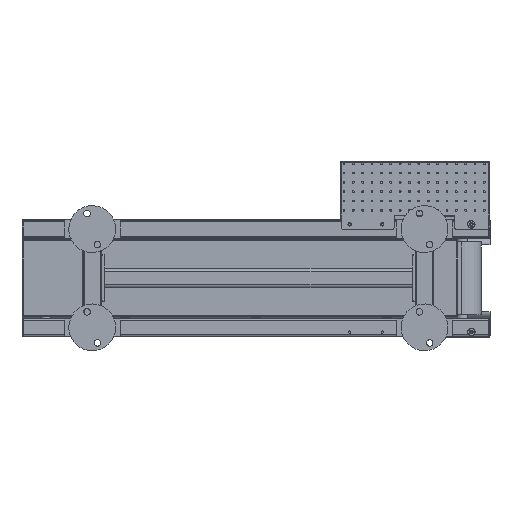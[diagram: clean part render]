
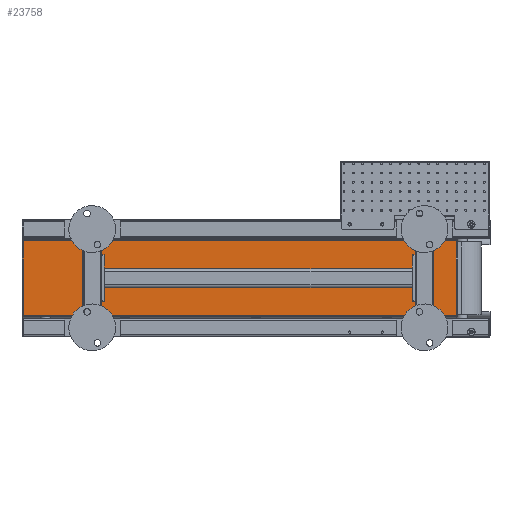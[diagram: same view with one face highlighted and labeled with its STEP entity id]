
A CAD part, front view. The second image highlights one B-rep face of the part: STEP entity #23758.
In plain terms, the highlighted planar face has unit normal (0, -1, 0).
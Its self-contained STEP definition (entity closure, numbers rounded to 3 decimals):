
#19118=PLANE('',#113540);
#23758=ADVANCED_FACE('',(#30215),#19118,.F.);
#30215=FACE_OUTER_BOUND('',#35232,.T.);
#35232=EDGE_LOOP('',(#59792,#59793,#59794,#59795));
#41937=LINE('',#145278,#50589);
#41938=LINE('',#145279,#50590);
#41939=LINE('',#145280,#50591);
#41940=LINE('',#145281,#50592);
#50589=VECTOR('',#121256,1.);
#50590=VECTOR('',#121257,1.);
#50591=VECTOR('',#121258,1.);
#50592=VECTOR('',#121259,1.);
#59792=ORIENTED_EDGE('',*,*,#96647,.T.);
#59793=ORIENTED_EDGE('',*,*,#96648,.F.);
#59794=ORIENTED_EDGE('',*,*,#96649,.T.);
#59795=ORIENTED_EDGE('',*,*,#96650,.T.);
#87556=VERTEX_POINT('',#145237);
#87558=VERTEX_POINT('',#145243);
#87564=VERTEX_POINT('',#145255);
#87567=VERTEX_POINT('',#145262);
#96647=EDGE_CURVE('',#87556,#87558,#41937,.T.);
#96648=EDGE_CURVE('',#87564,#87558,#41938,.T.);
#96649=EDGE_CURVE('',#87564,#87567,#41939,.T.);
#96650=EDGE_CURVE('',#87567,#87556,#41940,.T.);
#113540=AXIS2_PLACEMENT_3D('',#145282,#121260,#121261);
#121256=DIRECTION('',(1.,0.,0.));
#121257=DIRECTION('',(0.,0.,-1.));
#121258=DIRECTION('',(-1.,0.,0.));
#121259=DIRECTION('',(0.,0.,-1.));
#121260=DIRECTION('',(0.,1.,0.));
#121261=DIRECTION('',(0.,0.,-1.));
#145237=CARTESIAN_POINT('',(-80.,0.,-462.5));
#145243=CARTESIAN_POINT('',(80.,0.,-462.5));
#145255=CARTESIAN_POINT('',(80.,0.,462.5));
#145262=CARTESIAN_POINT('',(-80.,0.,462.5));
#145278=CARTESIAN_POINT('',(-80.,0.,-462.5));
#145279=CARTESIAN_POINT('',(80.,0.,465.));
#145280=CARTESIAN_POINT('',(80.,0.,462.5));
#145281=CARTESIAN_POINT('',(-80.,0.,465.));
#145282=CARTESIAN_POINT('',(-82.5,0.,465.));
